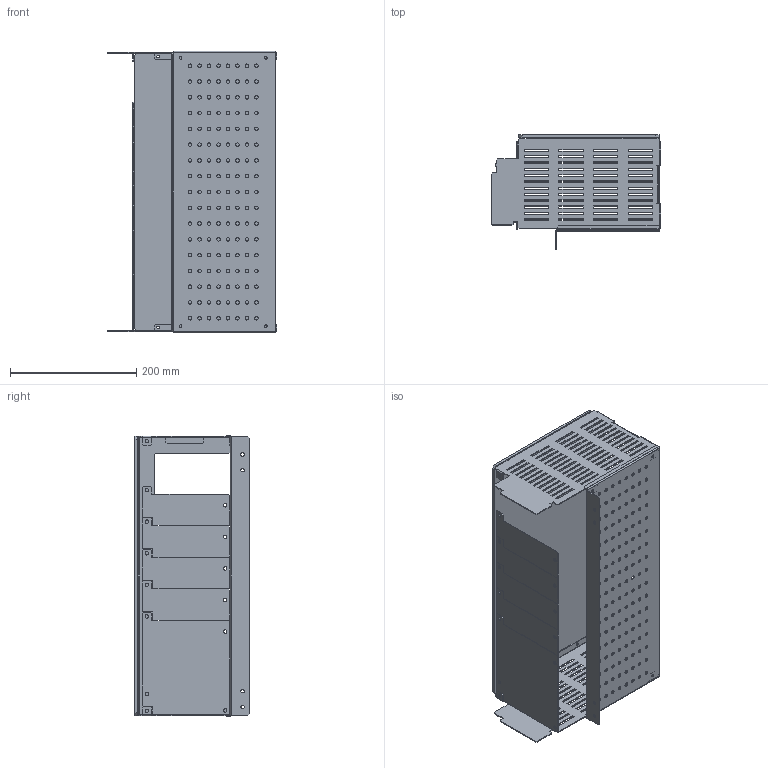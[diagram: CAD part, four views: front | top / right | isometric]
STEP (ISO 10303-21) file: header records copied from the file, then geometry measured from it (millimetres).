
FILE_DESCRIPTION(('CAx-IF Rec.Pracs.---Model Styling and Organization---1.2---2011-12-15','CAx-IF Rec.Pracs.---Geometric and Assembly Validation Properties---4.1---2014-06-16','CAx-IF Rec.Pracs.---PMI Polyline Presentation---2.0---2013-05-24'),'2;1');
FILE_NAME('R5MW9MSB4.stp','2021-05-05T13:00:26+03:00',(''),(''),'STEP Interface 4.4 by CT CoreTechnologie','3D_Evolution4.4 by CT CoreTechnologie','');
FILE_SCHEMA(('AUTOMOTIVE_DESIGN { 1 0 10303 214 1 1 1 1 }'));
Length unit declared in the file: millimetre
Products named in the file (7): R5MW9MSB4; RB.1460.00.00.0_-05; RB.1461.00.00.0_-05; RB.1462.00.00.0_-05; RB.1409.00.00.0_-01; RB.1409.00.00.0_-00; RB.1463.00.00.0_-00
Assembly tree (6 placements, depth 2):
  R5MW9MSB4
    RB.1460.00.00.0_-05
    RB.1461.00.00.0_-05
    RB.1462.00.00.0_-05
    RB.1409.00.00.0_-01
    RB.1409.00.00.0_-00
    RB.1463.00.00.0_-00
Bounding box: 269 x 181 x 446 mm (x, y, z)
Surface area: 671980.7 mm2 (no closed solid volume)
Topology: 0 solids, 6 shells, 1134 faces, 3330 edges, 2208 vertices
Faces by surface type: plane 758, cylinder 376
Entity records: 39004 total; most frequent: CARTESIAN_POINT 6679, ORIENTED_EDGE 6660, DIRECTION 6364, EDGE_CURVE 3330, VECTOR 2578, LINE 2578, VERTEX_POINT 2208, AXIS2_PLACEMENT_3D 1893
